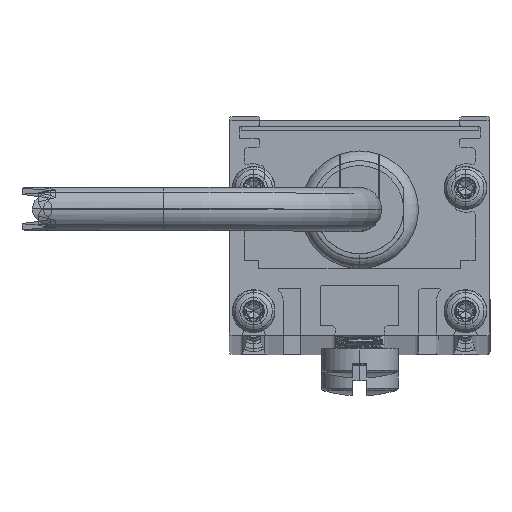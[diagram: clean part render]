
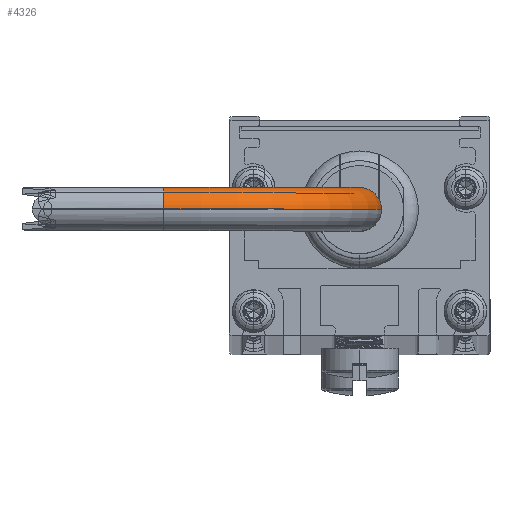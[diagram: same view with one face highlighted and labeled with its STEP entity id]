
A CAD part, top view. The second image highlights one B-rep face of the part: STEP entity #4326.
In plain terms, the highlighted toroidal (fillet/blend) face has major radius 25.4 mm and minor radius 2.845 mm.
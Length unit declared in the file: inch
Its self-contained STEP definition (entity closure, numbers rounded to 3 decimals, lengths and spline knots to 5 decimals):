
#128 = ORIENTED_EDGE ( 'NONE', *, *, #150, .F. ) ;
#150 = EDGE_CURVE ( 'NONE', #2831, #13090, #13448, .T. ) ;
#278 = ORIENTED_EDGE ( 'NONE', *, *, #15715, .T. ) ;
#614 = CIRCLE ( 'NONE', #3139, 1.112 ) ;
#880 = CARTESIAN_POINT ( 'NONE',  ( 1., 0., -1. ) ) ;
#917 = DIRECTION ( 'NONE',  ( -1., 0., 0. ) ) ;
#1691 = CARTESIAN_POINT ( 'NONE',  ( 1., 0., -1.888 ) ) ;
#2522 = DIRECTION ( 'NONE',  ( 0., 0., 1. ) ) ;
#2831 = VERTEX_POINT ( 'NONE', #12229 ) ;
#3139 = AXIS2_PLACEMENT_3D ( 'NONE', #8382, #18425, #11357 ) ;
#4069 = CIRCLE ( 'NONE', #10083, 0.888 ) ;
#4081 = FACE_OUTER_BOUND ( 'NONE', #5342, .T. ) ;
#4326 = ADVANCED_FACE ( 'NONE', ( #4081 ), #14300, .T. ) ;
#5342 = EDGE_LOOP ( 'NONE', ( #8179, #128, #15640, #278 ) ) ;
#5611 = DIRECTION ( 'NONE',  ( 1., 0., 0. ) ) ;
#6216 = CIRCLE ( 'NONE', #16958, 0.112 ) ;
#6409 = VERTEX_POINT ( 'NONE', #12006 ) ;
#7193 = AXIS2_PLACEMENT_3D ( 'NONE', #11226, #2522, #5611 ) ;
#7293 = CARTESIAN_POINT ( 'NONE',  ( -0.112, 0., -1. ) ) ;
#8179 = ORIENTED_EDGE ( 'NONE', *, *, #15774, .F. ) ;
#8382 = CARTESIAN_POINT ( 'NONE',  ( 1., 0., -1. ) ) ;
#9426 = DIRECTION ( 'NONE',  ( 0., -1., 0. ) ) ;
#9583 = CARTESIAN_POINT ( 'NONE',  ( 1., 0., -2. ) ) ;
#10083 = AXIS2_PLACEMENT_3D ( 'NONE', #880, #13847, #12442 ) ;
#11041 = DIRECTION ( 'NONE',  ( 0., 0., 1. ) ) ;
#11226 = CARTESIAN_POINT ( 'NONE',  ( 0., 0., -1. ) ) ;
#11357 = DIRECTION ( 'NONE',  ( 1., 0., 0. ) ) ;
#12006 = CARTESIAN_POINT ( 'NONE',  ( 1., 0., -2.112 ) ) ;
#12229 = CARTESIAN_POINT ( 'NONE',  ( 0.112, 0., -1. ) ) ;
#12442 = DIRECTION ( 'NONE',  ( 1., 0., 0. ) ) ;
#12725 = VERTEX_POINT ( 'NONE', #1691 ) ;
#12993 = EDGE_CURVE ( 'NONE', #2831, #12725, #4069, .T. ) ;
#13090 = VERTEX_POINT ( 'NONE', #7293 ) ;
#13448 = CIRCLE ( 'NONE', #7193, 0.112 ) ;
#13730 = CARTESIAN_POINT ( 'NONE',  ( 1., 0., -1. ) ) ;
#13847 = DIRECTION ( 'NONE',  ( 0., -1., 0. ) ) ;
#14300 = TOROIDAL_SURFACE ( 'NONE', #18704, 1., 0.112 ) ;
#15640 = ORIENTED_EDGE ( 'NONE', *, *, #12993, .T. ) ;
#15715 = EDGE_CURVE ( 'NONE', #12725, #6409, #6216, .T. ) ;
#15774 = EDGE_CURVE ( 'NONE', #13090, #6409, #614, .T. ) ;
#16958 = AXIS2_PLACEMENT_3D ( 'NONE', #9583, #917, #11041 ) ;
#18013 = DIRECTION ( 'NONE',  ( 0., 0., -1. ) ) ;
#18425 = DIRECTION ( 'NONE',  ( 0., -1., 0. ) ) ;
#18704 = AXIS2_PLACEMENT_3D ( 'NONE', #13730, #9426, #18013 ) ;
